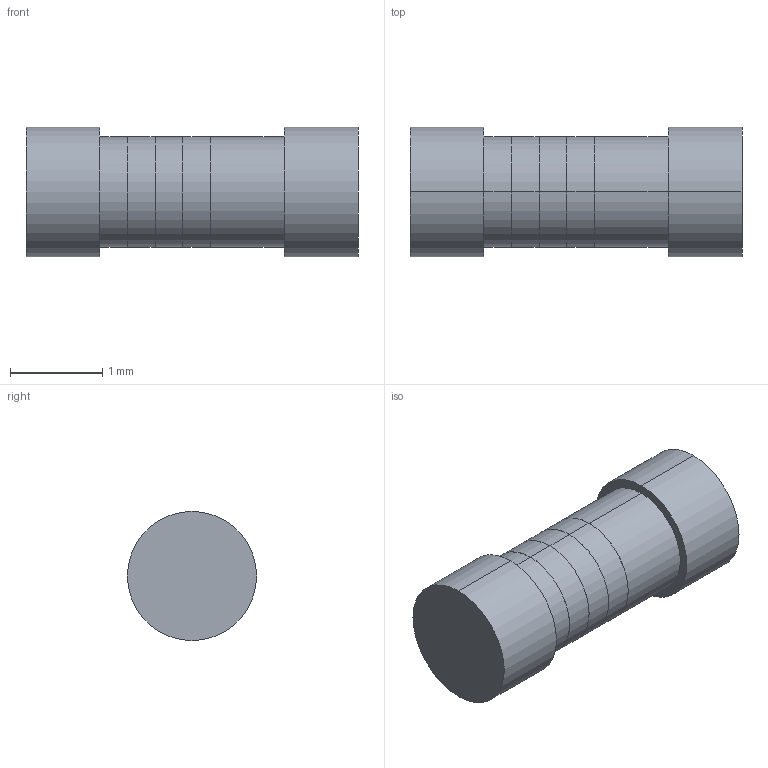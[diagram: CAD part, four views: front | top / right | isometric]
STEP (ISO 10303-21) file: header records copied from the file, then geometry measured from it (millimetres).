
FILE_DESCRIPTION (( 'STEP AP214' ), '1' );
FILE_NAME ( 'RESMELF360X140L80.STEP', '2021-10-06T06:49:12', ( '' ), ( '' ), '', '©2017 PCB Libraries, Inc.', '' );
FILE_SCHEMA (( 'AUTOMOTIVE_DESIGN' ));
Length unit declared in the file: millimetre
Products named in the file (1): RESMELF360X140L80
Bounding box: 3.6 x 1.4 x 1.4 mm (x, y, z)
Volume: 4.7 mm3; surface area: 23 mm2
Topology: 3 solids, 3 shells, 24 faces, 42 edges, 28 vertices
Faces by surface type: cylinder 14, plane 10
Entity records: 728 total; most frequent: DIRECTION 120, CARTESIAN_POINT 95, ORIENTED_EDGE 84, AXIS2_PLACEMENT_3D 53, EDGE_CURVE 42, VERTEX_POINT 28, CIRCLE 28, EDGE_LOOP 28
